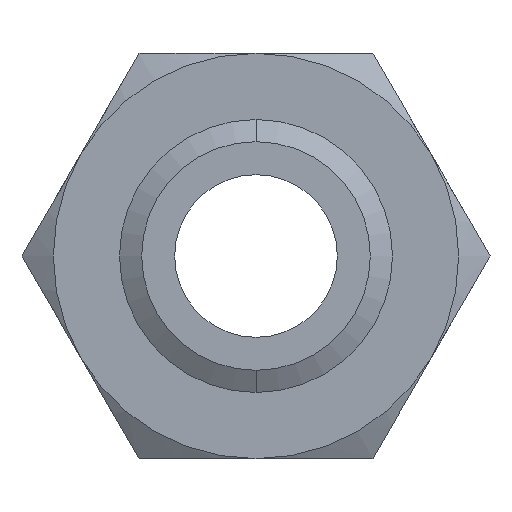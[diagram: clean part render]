
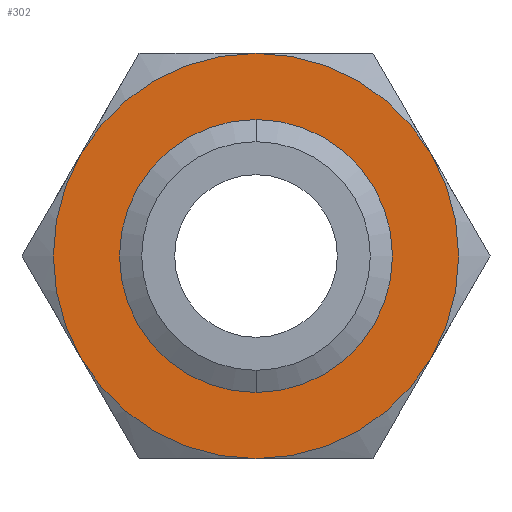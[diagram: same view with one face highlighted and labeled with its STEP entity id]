
A CAD part, front view. The second image highlights one B-rep face of the part: STEP entity #302.
In plain terms, the highlighted planar face has unit normal (0, -1, 0).
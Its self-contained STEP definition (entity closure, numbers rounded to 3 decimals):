
#281 = VERTEX_POINT ( 'NONE', #947 ) ;
#283 = VERTEX_POINT ( 'NONE', #946 ) ;
#284 = VERTEX_POINT ( 'NONE', #945 ) ;
#285 = ORIENTED_EDGE ( 'NONE', *, *, #334, .F. ) ;
#287 = EDGE_CURVE ( 'NONE', #283, #288, #944, .T. ) ;
#288 = VERTEX_POINT ( 'NONE', #939 ) ;
#289 = ORIENTED_EDGE ( 'NONE', *, *, #287, .F. ) ;
#290 = VERTEX_POINT ( 'NONE', #938 ) ;
#291 = ORIENTED_EDGE ( 'NONE', *, *, #292, .F. ) ;
#292 = EDGE_CURVE ( 'NONE', #288, #284, #937, .T. ) ;
#299 = EDGE_LOOP ( 'NONE', ( #303, #291, #289, #285, #327, #325 ) ) ;
#302 = ADVANCED_FACE ( 'NONE', ( #982, #981 ), #980, .F. ) ;
#303 = ORIENTED_EDGE ( 'NONE', *, *, #304, .F. ) ;
#304 = EDGE_CURVE ( 'NONE', #284, #290, #977, .T. ) ;
#317 = EDGE_LOOP ( 'NONE', ( #320, #322 ) ) ;
#320 = ORIENTED_EDGE ( 'NONE', *, *, #2125, .F. ) ;
#321 = EDGE_CURVE ( 'NONE', #2126, #2124, #1006, .T. ) ;
#322 = ORIENTED_EDGE ( 'NONE', *, *, #321, .F. ) ;
#324 = VERTEX_POINT ( 'NONE', #998 ) ;
#325 = ORIENTED_EDGE ( 'NONE', *, *, #326, .F. ) ;
#326 = EDGE_CURVE ( 'NONE', #290, #324, #996, .T. ) ;
#327 = ORIENTED_EDGE ( 'NONE', *, *, #328, .F. ) ;
#328 = EDGE_CURVE ( 'NONE', #324, #281, #1051, .T. ) ;
#334 = EDGE_CURVE ( 'NONE', #281, #283, #1040, .T. ) ;
#933 = DIRECTION ( 'NONE',  ( 0., 0., 1. ) ) ;
#934 = DIRECTION ( 'NONE',  ( 0., 1., 0. ) ) ;
#935 = CARTESIAN_POINT ( 'NONE',  ( 0., 0., 0. ) ) ;
#936 = AXIS2_PLACEMENT_3D ( 'NONE', #935, #934, #933 ) ;
#937 = CIRCLE ( 'NONE', #936, 47.5 ) ;
#938 = CARTESIAN_POINT ( 'NONE',  ( 41.136, 0., 23.75 ) ) ;
#939 = CARTESIAN_POINT ( 'NONE',  ( -41.136, 0., 23.75 ) ) ;
#940 = DIRECTION ( 'NONE',  ( 0., 0., 1. ) ) ;
#941 = DIRECTION ( 'NONE',  ( 0., 1., 0. ) ) ;
#942 = CARTESIAN_POINT ( 'NONE',  ( 0., 0., 0. ) ) ;
#943 = AXIS2_PLACEMENT_3D ( 'NONE', #942, #941, #940 ) ;
#944 = CIRCLE ( 'NONE', #943, 47.5 ) ;
#945 = CARTESIAN_POINT ( 'NONE',  ( 0., 0., 47.5 ) ) ;
#946 = CARTESIAN_POINT ( 'NONE',  ( -41.136, 0., -23.75 ) ) ;
#947 = CARTESIAN_POINT ( 'NONE',  ( 0., 0., -47.5 ) ) ;
#971 = DIRECTION ( 'NONE',  ( 0., 0., 1. ) ) ;
#972 = DIRECTION ( 'NONE',  ( 0., 1., 0. ) ) ;
#973 = CARTESIAN_POINT ( 'NONE',  ( 0., 0., 0. ) ) ;
#974 = AXIS2_PLACEMENT_3D ( 'NONE', #973, #972, #971 ) ;
#975 = DIRECTION ( 'NONE',  ( 0., 0., 1. ) ) ;
#976 = DIRECTION ( 'NONE',  ( 0., 1., 0. ) ) ;
#977 = CIRCLE ( 'NONE', #974, 47.5 ) ;
#978 = CARTESIAN_POINT ( 'NONE',  ( 27.424, 0., -47.5 ) ) ;
#979 = AXIS2_PLACEMENT_3D ( 'NONE', #978, #976, #975 ) ;
#980 = PLANE ( 'NONE',  #979 ) ;
#981 = FACE_BOUND ( 'NONE', #317, .T. ) ;
#982 = FACE_OUTER_BOUND ( 'NONE', #299, .T. ) ;
#992 = DIRECTION ( 'NONE',  ( 0., 0., 1. ) ) ;
#993 = DIRECTION ( 'NONE',  ( 0., 1., 0. ) ) ;
#994 = CARTESIAN_POINT ( 'NONE',  ( 0., 0., 0. ) ) ;
#995 = AXIS2_PLACEMENT_3D ( 'NONE', #994, #993, #992 ) ;
#996 = CIRCLE ( 'NONE', #995, 47.5 ) ;
#997 = CARTESIAN_POINT ( 'NONE',  ( 0., 0., 0. ) ) ;
#998 = CARTESIAN_POINT ( 'NONE',  ( 41.136, 0., -23.75 ) ) ;
#1000 = DIRECTION ( 'NONE',  ( 0., 0., -1. ) ) ;
#1001 = DIRECTION ( 'NONE',  ( 0., -1., 0. ) ) ;
#1002 = CARTESIAN_POINT ( 'NONE',  ( 0., 0., 0. ) ) ;
#1003 = AXIS2_PLACEMENT_3D ( 'NONE', #1002, #1001, #1000 ) ;
#1006 = CIRCLE ( 'NONE', #1003, 26.804 ) ;
#1037 = DIRECTION ( 'NONE',  ( 0., 0., 1. ) ) ;
#1038 = DIRECTION ( 'NONE',  ( 0., 1., 0. ) ) ;
#1039 = AXIS2_PLACEMENT_3D ( 'NONE', #1046, #1038, #1037 ) ;
#1040 = CIRCLE ( 'NONE', #1039, 47.5 ) ;
#1046 = CARTESIAN_POINT ( 'NONE',  ( 0., 0., 0. ) ) ;
#1048 = DIRECTION ( 'NONE',  ( 0., 0., 1. ) ) ;
#1049 = DIRECTION ( 'NONE',  ( 0., 1., 0. ) ) ;
#1050 = AXIS2_PLACEMENT_3D ( 'NONE', #997, #1049, #1048 ) ;
#1051 = CIRCLE ( 'NONE', #1050, 47.5 ) ;
#1417 = CARTESIAN_POINT ( 'NONE',  ( 0., 0., -26.804 ) ) ;
#1475 = CARTESIAN_POINT ( 'NONE',  ( 0., 0., 26.804 ) ) ;
#2124 = VERTEX_POINT ( 'NONE', #1417 ) ;
#2125 = EDGE_CURVE ( 'NONE', #2124, #2126, #2142, .T. ) ;
#2126 = VERTEX_POINT ( 'NONE', #1475 ) ;
#2132 = DIRECTION ( 'NONE',  ( 0., 0., -1. ) ) ;
#2134 = DIRECTION ( 'NONE',  ( 0., -1., 0. ) ) ;
#2142 = CIRCLE ( 'NONE', #2143, 26.804 ) ;
#2143 = AXIS2_PLACEMENT_3D ( 'NONE', #2144, #2134, #2132 ) ;
#2144 = CARTESIAN_POINT ( 'NONE',  ( 0., 0., 0. ) ) ;
